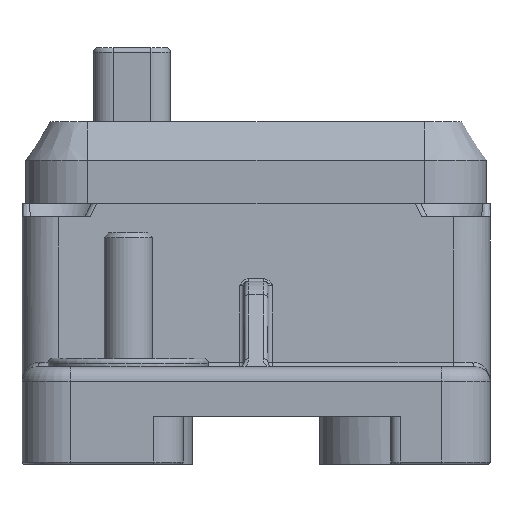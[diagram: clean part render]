
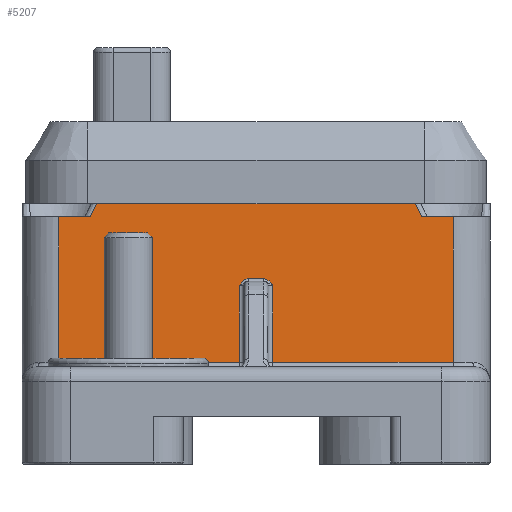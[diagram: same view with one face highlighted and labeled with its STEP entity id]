
A CAD part, left-side view. The second image highlights one B-rep face of the part: STEP entity #5207.
In plain terms, the highlighted planar face has unit normal (-1, 0, 0.024).
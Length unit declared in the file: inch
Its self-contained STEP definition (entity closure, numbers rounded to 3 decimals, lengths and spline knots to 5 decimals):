
#29=ELLIPSE('',#5687,0.01969,0.01969);
#190=PLANE('',#5704);
#273=B_SPLINE_CURVE_WITH_KNOTS('',3,(#8969,#8970,#8971,#8972,#8973,#8974,
#8975,#8976),.UNSPECIFIED.,.F.,.F.,(4,1,1,2,4),(-0.12651,-0.0759,
-0.0506,0.,0.00031),.UNSPECIFIED.);
#274=B_SPLINE_CURVE_WITH_KNOTS('',3,(#8980,#8981,#8982,#8983,#8984,#8985,
#8986,#8987,#8988,#8989,#8990,#8991),.UNSPECIFIED.,.F.,.F.,(4,2,1,1,1,1,
1,1,4),(-0.12682,-0.12651,-0.08856,-0.0759,
-0.0506,-0.03795,-0.0253,-0.01265,
0.),.UNSPECIFIED.);
#275=B_SPLINE_CURVE_WITH_KNOTS('',3,(#9000,#9001,#9002,#9003),
 .UNSPECIFIED.,.F.,.F.,(4,4),(-0.1688,-0.01794),
 .UNSPECIFIED.);
#276=B_SPLINE_CURVE_WITH_KNOTS('',3,(#9005,#9006,#9007,#9008),
 .UNSPECIFIED.,.F.,.F.,(4,4),(-0.13324,0.01762),
 .UNSPECIFIED.);
#526=FACE_OUTER_BOUND('',#862,.T.);
#862=EDGE_LOOP('',(#4106,#4107,#4108,#4109,#4110,#4111,#4112,#4113,#4114,
#4115,#4116,#4117,#4118,#4119,#4120,#4121));
#1071=LINE('',#8004,#1440);
#1262=LINE('',#8815,#1631);
#1277=LINE('',#8953,#1646);
#1278=LINE('',#8965,#1647);
#1279=LINE('',#8967,#1648);
#1280=LINE('',#8978,#1649);
#1281=LINE('',#8993,#1650);
#1282=LINE('',#8995,#1651);
#1283=LINE('',#8997,#1652);
#1284=LINE('',#8999,#1653);
#1285=LINE('',#9009,#1654);
#1440=VECTOR('',#6080,0.3937);
#1631=VECTOR('',#6763,0.3937);
#1646=VECTOR('',#6828,0.3937);
#1647=VECTOR('',#6833,0.3937);
#1648=VECTOR('',#6834,0.3937);
#1649=VECTOR('',#6835,0.3937);
#1650=VECTOR('',#6836,0.3937);
#1651=VECTOR('',#6837,0.3937);
#1652=VECTOR('',#6838,0.3937);
#1653=VECTOR('',#6839,0.3937);
#1654=VECTOR('',#6840,0.3937);
#2093=VERTEX_POINT('',#7696);
#2107=VERTEX_POINT('',#7972);
#2331=VERTEX_POINT('',#8811);
#2333=VERTEX_POINT('',#8814);
#2340=VERTEX_POINT('',#8847);
#2356=VERTEX_POINT('',#8952);
#2357=VERTEX_POINT('',#8964);
#2358=VERTEX_POINT('',#8966);
#2359=VERTEX_POINT('',#8968);
#2360=VERTEX_POINT('',#8977);
#2361=VERTEX_POINT('',#8979);
#2362=VERTEX_POINT('',#8992);
#2363=VERTEX_POINT('',#8994);
#2364=VERTEX_POINT('',#8996);
#2365=VERTEX_POINT('',#8998);
#2366=VERTEX_POINT('',#9004);
#2604=EDGE_CURVE('',#2093,#2107,#1071,.T.);
#2940=EDGE_CURVE('',#2333,#2331,#1262,.T.);
#2950=EDGE_CURVE('',#2331,#2340,#29,.T.);
#2975=EDGE_CURVE('',#2333,#2356,#1277,.T.);
#2978=EDGE_CURVE('',#2357,#2340,#1278,.T.);
#2979=EDGE_CURVE('',#2358,#2357,#1279,.T.);
#2980=EDGE_CURVE('',#2359,#2358,#273,.T.);
#2981=EDGE_CURVE('',#2360,#2359,#1280,.T.);
#2982=EDGE_CURVE('',#2361,#2360,#274,.T.);
#2983=EDGE_CURVE('',#2362,#2361,#1281,.T.);
#2984=EDGE_CURVE('',#2363,#2362,#1282,.T.);
#2985=EDGE_CURVE('',#2364,#2363,#1283,.T.);
#2986=EDGE_CURVE('',#2364,#2365,#1284,.T.);
#2987=EDGE_CURVE('',#2093,#2365,#275,.T.);
#2988=EDGE_CURVE('',#2366,#2107,#276,.T.);
#2989=EDGE_CURVE('',#2366,#2356,#1285,.T.);
#4106=ORIENTED_EDGE('',*,*,#2940,.T.);
#4107=ORIENTED_EDGE('',*,*,#2950,.T.);
#4108=ORIENTED_EDGE('',*,*,#2978,.F.);
#4109=ORIENTED_EDGE('',*,*,#2979,.F.);
#4110=ORIENTED_EDGE('',*,*,#2980,.F.);
#4111=ORIENTED_EDGE('',*,*,#2981,.F.);
#4112=ORIENTED_EDGE('',*,*,#2982,.F.);
#4113=ORIENTED_EDGE('',*,*,#2983,.F.);
#4114=ORIENTED_EDGE('',*,*,#2984,.F.);
#4115=ORIENTED_EDGE('',*,*,#2985,.F.);
#4116=ORIENTED_EDGE('',*,*,#2986,.T.);
#4117=ORIENTED_EDGE('',*,*,#2987,.F.);
#4118=ORIENTED_EDGE('',*,*,#2604,.T.);
#4119=ORIENTED_EDGE('',*,*,#2988,.F.);
#4120=ORIENTED_EDGE('',*,*,#2989,.T.);
#4121=ORIENTED_EDGE('',*,*,#2975,.F.);
#5207=ADVANCED_FACE('',(#526),#190,.F.);
#5687=AXIS2_PLACEMENT_3D('',#8848,#6784,#6785);
#5704=AXIS2_PLACEMENT_3D('',#8963,#6831,#6832);
#6080=DIRECTION('',(0.,1.,0.));
#6763=DIRECTION('',(0.,-1.,0.));
#6784=DIRECTION('center_axis',(1.,0.,-0.024));
#6785=DIRECTION('ref_axis',(0.024,0.,1.));
#6828=DIRECTION('',(0.024,0.,1.));
#6831=DIRECTION('center_axis',(1.,0.,-0.024));
#6832=DIRECTION('ref_axis',(-0.024,0.,-1.));
#6833=DIRECTION('',(0.,1.,0.));
#6834=DIRECTION('',(-0.024,0.,-1.));
#6835=DIRECTION('',(0.,1.,0.));
#6836=DIRECTION('',(0.024,0.,1.));
#6837=DIRECTION('',(0.,1.,0.));
#6838=DIRECTION('',(-0.024,0.,-1.));
#6839=DIRECTION('',(0.,1.,0.));
#6840=DIRECTION('',(0.,1.,0.));
#7696=CARTESIAN_POINT('',(0.68651,0.30418,0.86608));
#7972=CARTESIAN_POINT('',(0.68651,1.60527,0.86608));
#8004=CARTESIAN_POINT('',(0.68651,1.90945,0.86608));
#8811=CARTESIAN_POINT('',(0.67112,1.1694,0.23622));
#8814=CARTESIAN_POINT('',(0.67112,1.75883,0.23622));
#8815=CARTESIAN_POINT('',(0.67112,0.73819,0.23622));
#8847=CARTESIAN_POINT('',(0.67072,1.15002,0.21999));
#8848=CARTESIAN_POINT('Origin',(0.67064,1.1694,0.21654));
#8952=CARTESIAN_POINT('',(0.68521,1.75883,0.81293));
#8953=CARTESIAN_POINT('',(0.66847,1.75883,0.12784));
#8963=CARTESIAN_POINT('Origin',(0.67025,0.,
0.20079));
#8964=CARTESIAN_POINT('',(0.67072,1.02328,0.21999));
#8965=CARTESIAN_POINT('',(0.67072,0.47736,0.21999));
#8966=CARTESIAN_POINT('',(0.67834,1.02328,0.53166));
#8967=CARTESIAN_POINT('',(0.67182,1.02328,0.26493));
#8968=CARTESIAN_POINT('',(0.67904,0.98536,0.56047));
#8969=CARTESIAN_POINT('Ctrl Pts',(0.67904,0.98536,0.56047));
#8970=CARTESIAN_POINT('Ctrl Pts',(0.67904,0.992,0.56047));
#8971=CARTESIAN_POINT('Ctrl Pts',(0.67896,1.00192,0.55716));
#8972=CARTESIAN_POINT('Ctrl Pts',(0.67869,1.01456,0.54621));
#8973=CARTESIAN_POINT('Ctrl Pts',(0.67848,1.0199,0.53752));
#8974=CARTESIAN_POINT('Ctrl Pts',(0.67834,1.02324,0.53173));
#8975=CARTESIAN_POINT('Ctrl Pts',(0.67834,1.02326,0.5317));
#8976=CARTESIAN_POINT('Ctrl Pts',(0.67834,1.02328,0.53166));
#8977=CARTESIAN_POINT('',(0.67904,0.92409,0.56047));
#8978=CARTESIAN_POINT('',(0.67904,0.47736,0.56047));
#8979=CARTESIAN_POINT('',(0.67834,0.88617,0.53166));
#8980=CARTESIAN_POINT('Ctrl Pts',(0.67834,0.88617,0.53166));
#8981=CARTESIAN_POINT('Ctrl Pts',(0.67834,0.88619,0.5317));
#8982=CARTESIAN_POINT('Ctrl Pts',(0.67834,0.88621,0.53173));
#8983=CARTESIAN_POINT('Ctrl Pts',(0.67844,0.88871,0.53608));
#8984=CARTESIAN_POINT('Ctrl Pts',(0.67859,0.89218,0.54189));
#8985=CARTESIAN_POINT('Ctrl Pts',(0.67877,0.89866,0.5495));
#8986=CARTESIAN_POINT('Ctrl Pts',(0.67888,0.9037,0.55387));
#8987=CARTESIAN_POINT('Ctrl Pts',(0.67896,0.90955,0.55721));
#8988=CARTESIAN_POINT('Ctrl Pts',(0.67901,0.91418,0.55904));
#8989=CARTESIAN_POINT('Ctrl Pts',(0.67903,0.91909,0.56021));
#8990=CARTESIAN_POINT('Ctrl Pts',(0.67904,0.92243,0.56047));
#8991=CARTESIAN_POINT('Ctrl Pts',(0.67904,0.92409,0.56047));
#8992=CARTESIAN_POINT('',(0.67072,0.88617,0.21999));
#8993=CARTESIAN_POINT('',(0.67182,0.88617,0.26493));
#8994=CARTESIAN_POINT('',(0.67072,0.15061,0.21999));
#8995=CARTESIAN_POINT('',(0.67072,0.47736,0.21999));
#8996=CARTESIAN_POINT('',(0.68521,0.15061,0.81293));
#8997=CARTESIAN_POINT('',(0.6676,0.15061,0.09227));
#8998=CARTESIAN_POINT('',(0.68521,0.27771,0.81293));
#8999=CARTESIAN_POINT('',(0.68521,0.07382,0.81293));
#9000=CARTESIAN_POINT('Ctrl Pts',(0.68651,0.30418,0.86608));
#9001=CARTESIAN_POINT('Ctrl Pts',(0.68607,0.29564,0.84823));
#9002=CARTESIAN_POINT('Ctrl Pts',(0.68564,0.28687,0.83048));
#9003=CARTESIAN_POINT('Ctrl Pts',(0.68521,0.27771,0.81293));
#9004=CARTESIAN_POINT('',(0.68521,1.63174,0.81293));
#9005=CARTESIAN_POINT('Ctrl Pts',(0.68521,1.63174,0.81293));
#9006=CARTESIAN_POINT('Ctrl Pts',(0.68564,1.62258,0.83048));
#9007=CARTESIAN_POINT('Ctrl Pts',(0.68607,1.61381,0.84823));
#9008=CARTESIAN_POINT('Ctrl Pts',(0.68651,1.60527,0.86608));
#9009=CARTESIAN_POINT('',(0.68521,0.88091,0.81293));
